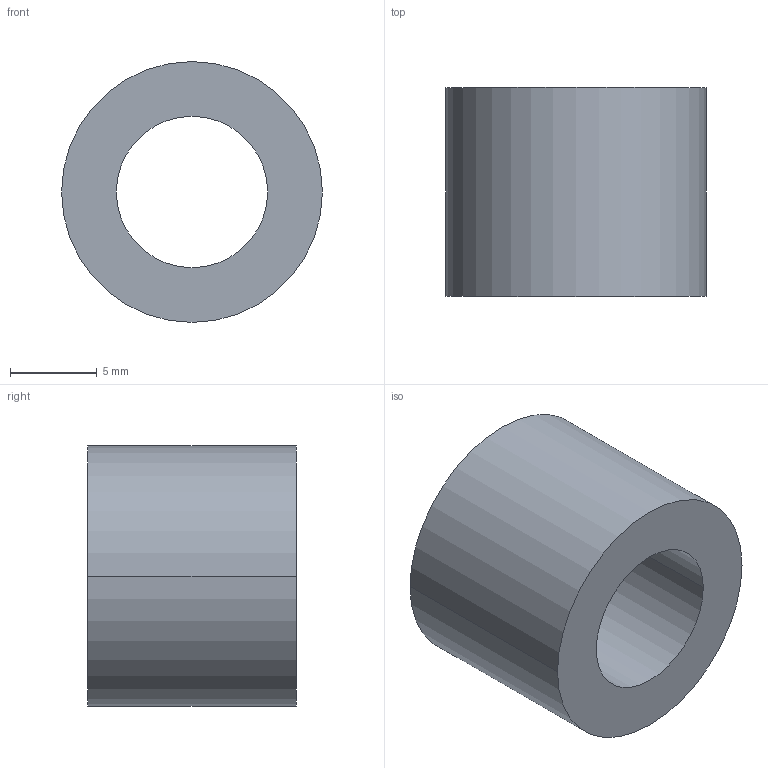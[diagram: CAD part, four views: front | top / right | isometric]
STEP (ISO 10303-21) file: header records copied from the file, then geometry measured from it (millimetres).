
FILE_DESCRIPTION (( 'STEP AP203' ), '1' );
FILE_NAME ('30800.WPP15E8.7.step', '2019-01-23T22:30:58', ( '' ), ( '' ), 'SwSTEP 2.0', 'SolidWorks 2017', '' );
FILE_SCHEMA (( 'CONFIG_CONTROL_DESIGN' ));
Length unit declared in the file: millimetre
Products named in the file (1): 30800.WPP15E8.7
Bounding box: 15 x 12 x 15 mm (x, y, z)
Volume: 1381.3 mm3; surface area: 1106.3 mm2
Topology: 1 solids, 1 shells, 8 faces, 16 edges, 10 vertices
Faces by surface type: cylinder 4, torus 2, plane 2
Entity records: 297 total; most frequent: DIRECTION 46, CARTESIAN_POINT 35, ORIENTED_EDGE 32, AXIS2_PLACEMENT_3D 21, EDGE_CURVE 16, CIRCLE 12, VERTEX_POINT 10, EDGE_LOOP 10
